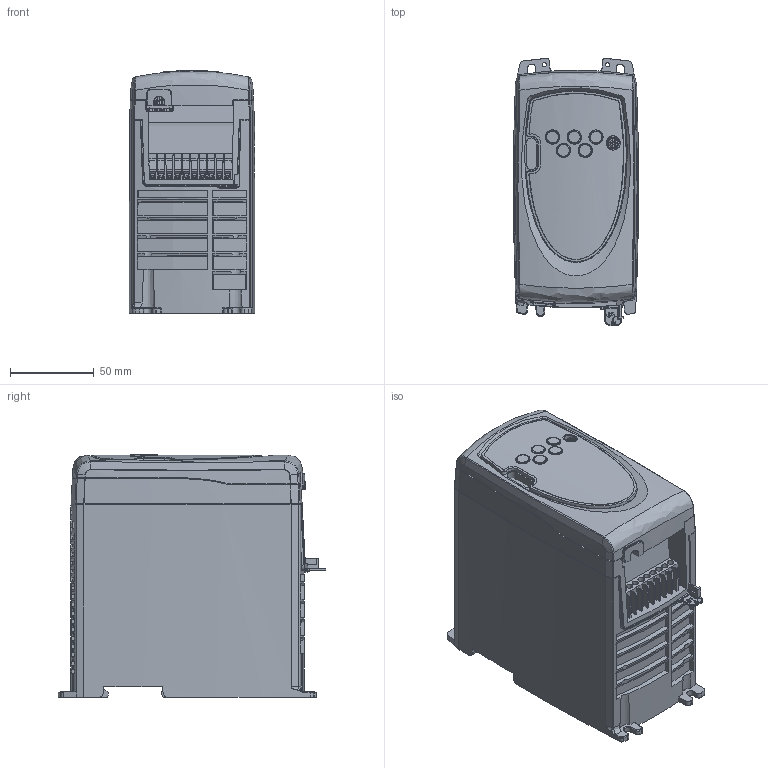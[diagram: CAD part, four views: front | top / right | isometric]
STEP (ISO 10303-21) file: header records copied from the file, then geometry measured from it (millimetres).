
FILE_DESCRIPTION((''),'2;1');
FILE_NAME('PK-SEQ-SK-A-ALL-NOSTICK','2006-12-19T',('summne01'),(''),'PRO/ENGINEER BY PARAMETRIC TECHNOLOGY CORPORATION, 2006320','PRO/ENGINEER BY PARAMETRIC TECHNOLOGY CORPORATION, 2006320','');
FILE_SCHEMA(('CONFIG_CONTROL_DESIGN'));
Length unit declared in the file: millimetre
Products named in the file (1): PK-SEQ-SK-A-ALL-NOSTICK
Bounding box: 74.95 x 159.99 x 145.39 mm (x, y, z)
Surface area: 160501.9 mm2 (no closed solid volume)
Topology: 0 solids, 269 shells, 3061 faces, 11129 edges, 8161 vertices
Faces by surface type: plane 2120, cylinder 607, cone 169, bspline 137, torus 19, revolution 3, extrusion 3, sphere 3
Entity records: 127804 total; most frequent: CARTESIAN_POINT 37730, ORIENTED_EDGE 17695, DIRECTION 16641, EDGE_CURVE 11127, VERTEX_POINT 8161, VECTOR 8050, LINE 8047, AXIS2_PLACEMENT_3D 4294
